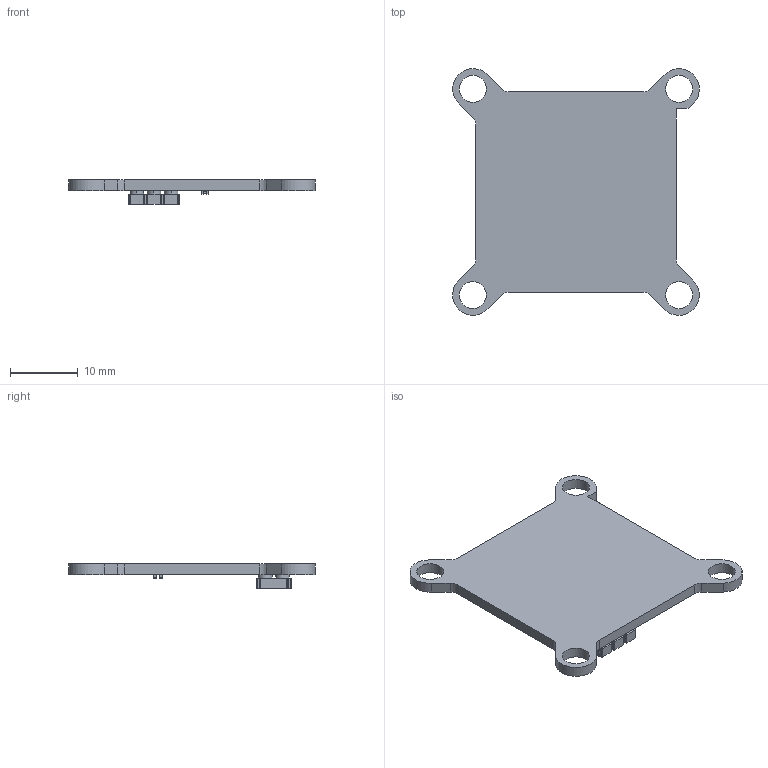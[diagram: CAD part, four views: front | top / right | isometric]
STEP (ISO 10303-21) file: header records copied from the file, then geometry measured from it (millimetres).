
FILE_DESCRIPTION(('Designed by EasyEDA Pro'),'2;1');
FILE_NAME('Open CASCADE Shape Model','2023-11-18T14:31:37',('Author'),( 'Open CASCADE'),'Open CASCADE STEP processor 7.6','Open CASCADE 7.6' ,'Unknown');
FILE_SCHEMA(('AUTOMOTIVE_DESIGN { 1 0 10303 214 1 1 1 1 }'));
Length unit declared in the file: millimetre
Products named in the file (9): PCBModel; COMPOUND; CN1; CONN-SMD_6P-P2.54_POGOPIN_2-04_P2.54MM; C44; C0402-NSK; SOLID; C43
Assembly tree (9 placements, depth 4):
  PCBModel
    COMPOUND
    CN1
      CONN-SMD_6P-P2.54_POGOPIN_2-04_P2.54MM
        COMPOUND
    C44
      C0402-NSK
        SOLID
    C43
      C0402-NSK
        SOLID
Bounding box: 36.47 x 36.47 x 3.6 mm (x, y, z)
Volume: 1558 mm3; surface area: 2333.1 mm2
Topology: 17 solids, 17 shells, 1088 faces, 2890 edges, 1884 vertices
Faces by surface type: plane 593, bspline 322, cylinder 145, sphere 16, cone 12
Full cylindrical faces by diameter (mm): 4 x4
Entity records: 30561 total; most frequent: CARTESIAN_POINT 7696, ORIENTED_EDGE 3822, DIRECTION 2659, EDGE_CURVE 1911, VERTEX_POINT 1258, LINE 1225, VECTOR 1225, FACE_BOUND 781
